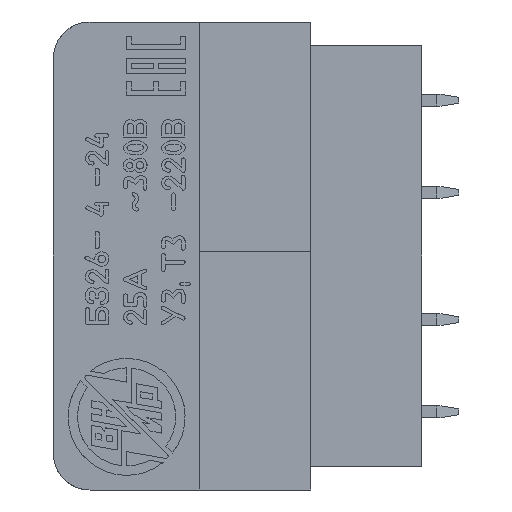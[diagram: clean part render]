
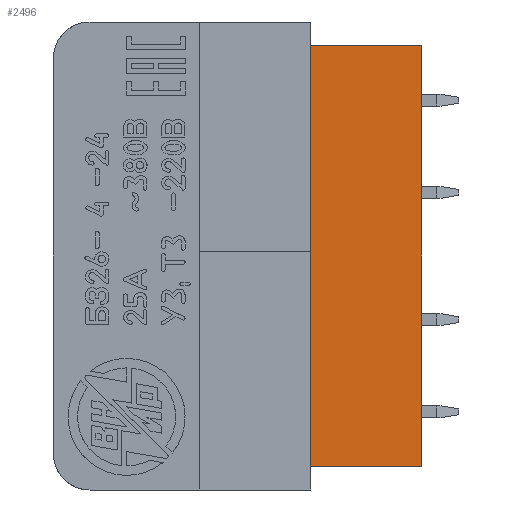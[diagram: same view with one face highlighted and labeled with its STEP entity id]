
A CAD part, left-side view. The second image highlights one B-rep face of the part: STEP entity #2496.
In plain terms, the highlighted planar face has unit normal (-1, 0, 0).
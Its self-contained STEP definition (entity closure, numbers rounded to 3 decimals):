
#2496=ADVANCED_FACE('',(#62443),#62445,.T.);
#62443=FACE_BOUND('',#62444,.T.);
#62444=EDGE_LOOP('',(#135789,#135790,#135791,#135792,#135793,#135794,#135795,#135796,
#135797,#135798,#135799,#135800));
#62445=PLANE('',#62446);
#62446=AXIS2_PLACEMENT_3D('',#62447,#62448,#62449);
#62447=CARTESIAN_POINT('',(-57.7,-8.8,27.14));
#62448=DIRECTION('',(-1.,-0.,-0.));
#62449=DIRECTION('',(0.,0.,-1.));
#135789=ORIENTED_EDGE('',*,*,#173476,.T.);
#135790=ORIENTED_EDGE('',*,*,#176147,.T.);
#135791=ORIENTED_EDGE('',*,*,#176148,.T.);
#135792=ORIENTED_EDGE('',*,*,#176149,.T.);
#135793=ORIENTED_EDGE('',*,*,#173471,.T.);
#135794=ORIENTED_EDGE('',*,*,#176150,.T.);
#135795=ORIENTED_EDGE('',*,*,#176151,.F.);
#135796=ORIENTED_EDGE('',*,*,#176152,.F.);
#135797=ORIENTED_EDGE('',*,*,#173457,.T.);
#135798=ORIENTED_EDGE('',*,*,#176145,.T.);
#135799=ORIENTED_EDGE('',*,*,#176153,.T.);
#135800=ORIENTED_EDGE('',*,*,#176154,.T.);
#173457=EDGE_CURVE('',#194948,#194946,#194949,.T.);
#173471=EDGE_CURVE('',#194976,#194974,#194977,.T.);
#173476=EDGE_CURVE('',#194986,#194984,#194987,.T.);
#176145=EDGE_CURVE('',#194946,#200174,#200175,.F.);
#176147=EDGE_CURVE('',#194984,#200177,#200178,.F.);
#176148=EDGE_CURVE('',#200177,#200179,#200180,.T.);
#176149=EDGE_CURVE('',#200179,#194976,#200181,.F.);
#176150=EDGE_CURVE('',#194974,#200182,#200183,.T.);
#176151=EDGE_CURVE('',#200184,#200182,#200185,.T.);
#176152=EDGE_CURVE('',#194948,#200184,#200186,.T.);
#176153=EDGE_CURVE('',#200174,#200187,#200188,.T.);
#176154=EDGE_CURVE('',#200187,#194986,#200189,.F.);
#194946=VERTEX_POINT('',#228329);
#194948=VERTEX_POINT('',#228333);
#194949=LINE('',#228334,#228335);
#194974=VERTEX_POINT('',#228387);
#194976=VERTEX_POINT('',#228391);
#194977=LINE('',#228392,#228393);
#194984=VERTEX_POINT('',#228408);
#194986=VERTEX_POINT('',#228412);
#194987=LINE('',#228413,#228414);
#200174=VERTEX_POINT('',#239553);
#200175=LINE('',#239554,#239555);
#200177=VERTEX_POINT('',#239560);
#200178=LINE('',#239561,#239562);
#200179=VERTEX_POINT('',#239564);
#200180=LINE('',#239565,#239566);
#200181=LINE('',#239568,#239569);
#200182=VERTEX_POINT('',#239571);
#200183=LINE('',#239572,#239573);
#200184=VERTEX_POINT('',#239575);
#200185=LINE('',#239576,#239577);
#200186=LINE('',#239579,#239580);
#200187=VERTEX_POINT('',#239582);
#200188=LINE('',#239583,#239584);
#200189=LINE('',#239586,#239587);
#228329=CARTESIAN_POINT('',(-57.7,-8.8,27.765));
#228333=CARTESIAN_POINT('',(-57.7,-8.8,27.14));
#228334=CARTESIAN_POINT('',(-57.7,-8.8,27.14));
#228335=VECTOR('',#228336,1.);
#228336=DIRECTION('',(0.,0.,1.));
#228387=CARTESIAN_POINT('',(-57.7,-8.8,-1.61));
#228391=CARTESIAN_POINT('',(-57.7,-8.8,14.065));
#228392=CARTESIAN_POINT('',(-57.7,-8.8,14.065));
#228393=VECTOR('',#228394,1.);
#228394=DIRECTION('',(0.,0.,-1.));
#228408=CARTESIAN_POINT('',(-57.7,-8.8,20.265));
#228412=CARTESIAN_POINT('',(-57.7,-8.8,21.265));
#228413=CARTESIAN_POINT('',(-57.7,-8.8,21.265));
#228414=VECTOR('',#228415,1.);
#228415=DIRECTION('',(0.,0.,-1.));
#239553=CARTESIAN_POINT('',(-57.7,-3.2,27.765));
#239554=CARTESIAN_POINT('',(-57.7,-3.2,27.765));
#239555=VECTOR('',#239556,1.);
#239556=DIRECTION('',(0.,-1.,0.));
#239560=CARTESIAN_POINT('',(-57.7,-3.2,20.265));
#239561=CARTESIAN_POINT('',(-57.7,-3.2,20.265));
#239562=VECTOR('',#239563,1.);
#239563=DIRECTION('',(0.,-1.,0.));
#239564=CARTESIAN_POINT('',(-57.7,-3.2,14.065));
#239565=CARTESIAN_POINT('',(-57.7,-3.2,20.265));
#239566=VECTOR('',#239567,1.);
#239567=DIRECTION('',(0.,0.,-1.));
#239568=CARTESIAN_POINT('',(-57.7,-8.8,14.065));
#239569=VECTOR('',#239570,1.);
#239570=DIRECTION('',(0.,1.,0.));
#239571=CARTESIAN_POINT('',(-57.7,-16.4,-1.61));
#239572=CARTESIAN_POINT('',(-57.7,-8.8,-1.61));
#239573=VECTOR('',#239574,1.);
#239574=DIRECTION('',(0.,-1.,0.));
#239575=CARTESIAN_POINT('',(-57.7,-16.4,27.14));
#239576=CARTESIAN_POINT('',(-57.7,-16.4,27.14));
#239577=VECTOR('',#239578,1.);
#239578=DIRECTION('',(0.,0.,-1.));
#239579=CARTESIAN_POINT('',(-57.7,-8.8,27.14));
#239580=VECTOR('',#239581,1.);
#239581=DIRECTION('',(0.,-1.,0.));
#239582=CARTESIAN_POINT('',(-57.7,-3.2,21.265));
#239583=CARTESIAN_POINT('',(-57.7,-3.2,27.765));
#239584=VECTOR('',#239585,1.);
#239585=DIRECTION('',(0.,0.,-1.));
#239586=CARTESIAN_POINT('',(-57.7,-8.8,21.265));
#239587=VECTOR('',#239588,1.);
#239588=DIRECTION('',(0.,1.,0.));
